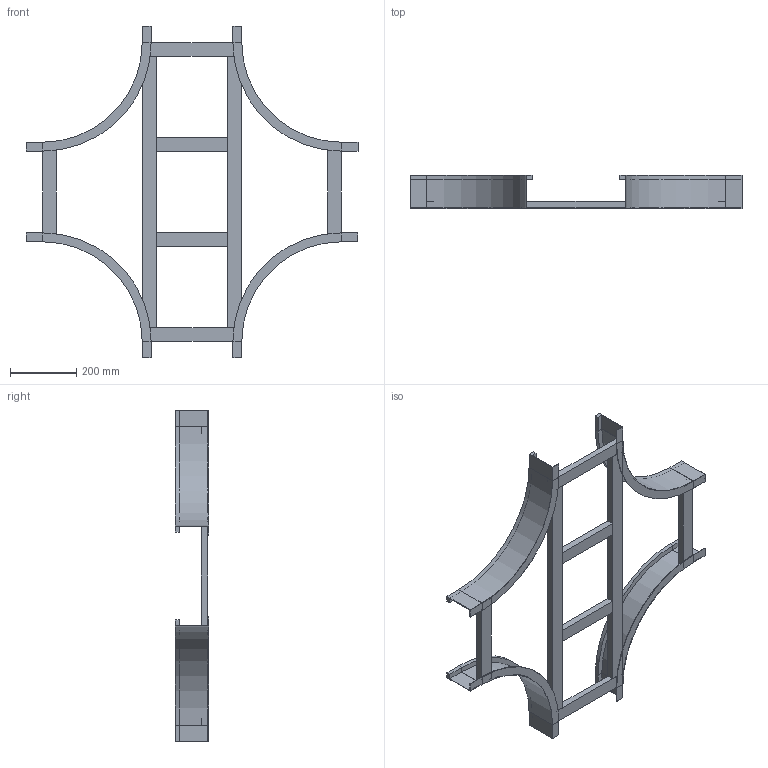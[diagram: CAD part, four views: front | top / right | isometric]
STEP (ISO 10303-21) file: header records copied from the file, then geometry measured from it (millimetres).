
FILE_DESCRIPTION (( 'STEP AP214' ), '1' );
FILE_NAME ('B2_17B3D300.step', '2025-02-21T15:55:33', ( '' ), ( '' ), 'SwSTEP 2.0', 'SolidWorks 2023', '' );
FILE_SCHEMA (( 'AUTOMOTIVE_DESIGN' ));
Length unit declared in the file: millimetre
Products named in the file (5): TRAVERSINO_300; B2_TRAVERSINO_LONG._R300+300; B2_17B3D300; TRAVERSINO_INTERMEDIO_R300+300; B2_LONGH.INTERNO 90°_H100_R300
Assembly tree (12 placements, depth 2):
  B2_17B3D300
    B2_LONGH.INTERNO 90°_H100_R300  x4
    TRAVERSINO_300  x4
    B2_TRAVERSINO_LONG._R300+300  x2
    TRAVERSINO_INTERMEDIO_R300+300  x2
Bounding box: 1000 x 100 x 1000 mm (x, y, z)
Volume: 3661946 mm3; surface area: 1072853.5 mm2
Topology: 12 solids, 12 shells, 152 faces, 320 edges, 192 vertices
Faces by surface type: plane 136, cylinder 16
Entity records: 1354 total; most frequent: DIRECTION 218, CARTESIAN_POINT 207, ORIENTED_EDGE 184, EDGE_CURVE 92, LINE 84, VECTOR 84, AXIS2_PLACEMENT_3D 67, VERTEX_POINT 56
